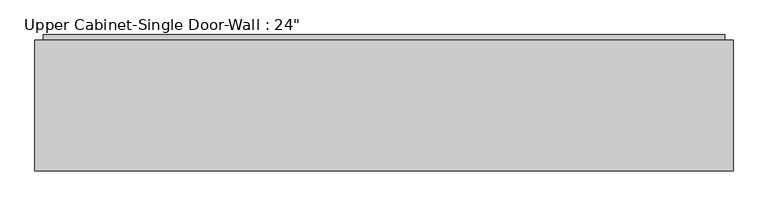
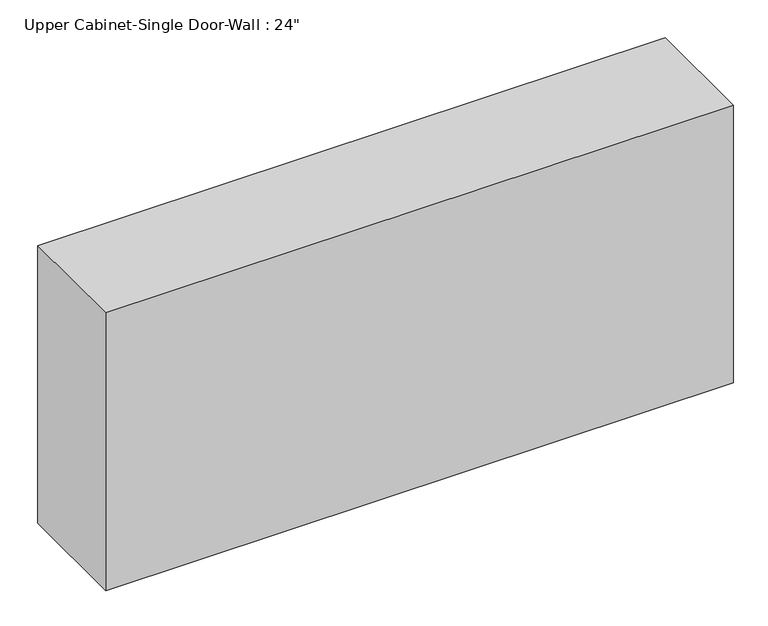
"""IFC4 building model written with IfcOpenShell, lengths in millimetres: furniture geometry."""

from ifc_helpers import new_model, si_unit, frame, origin, place, context, project, spatial, polyline, outline, extrude, faceted_brep, source, transform, mapped, element, save


def furniture_1611b9c0(model_context):
    return source(origin(), model_context, "Body", "SolidModel", [
        faceted_brep([(-1369.9853771, 82.55, 2133.6), (-1369.9853771, 82.55, 1371.6), (258.3711628, 82.55, 1371.6), (258.3711628, 82.55, 2133.6), (-1369.9853771, 387.35, 2133.6), (258.3711628, 387.35, 2133.6), (258.3711628, 387.35, 1371.6), (-1369.9853771, 387.35, 1371.6), (-1350.9353771, 387.35, 2114.55), (-1350.9353771, 387.35, 1390.65), (239.3211628, 387.35, 1390.65), (239.3211628, 387.35, 2114.55), (239.3211628, 101.6, 2114.55), (-1350.9353771, 101.6, 2114.55), (239.3211628, 101.6, 1390.65), (-1350.9353771, 101.6, 1390.65)], [[[0, 1, 2, 3]], [[4, 5, 6, 7], [8, 9, 10, 11]], [[1, 0, 4, 7]], [[2, 1, 7, 6]], [[3, 2, 6, 5]], [[0, 3, 5, 4]], [[8, 11, 12, 13]], [[11, 10, 14, 12]], [[10, 9, 15, 14]], [[9, 8, 13, 15]], [[13, 12, 14, 15]]]),
        extrude(outline(polyline([(-1350.9353771, 400.05), (239.3211628, 400.05), (239.3211628, 368.3), (-1350.9353771, 368.3), (-1350.9353771, 400.05)])), frame((0.0, 0.0, 1390.65), z_axis=(0.0, 0.0, 1.0), x_axis=(1.0, 0.0, 0.0)), (0.0, 0.0, 1.0), 723.9),
    ])


if __name__ == "__main__":
    model = new_model("IFC4")
    model_context = context("Model", 3, world=origin())
    ifc_project = project(units=[si_unit("LENGTHUNIT", "METRE", prefix="MILLI")], contexts=[model_context])
    site = spatial("IfcSite", under=ifc_project)
    building = spatial("IfcBuilding", under=site)
    placement = place(None, origin())
    furniture_shape = furniture_1611b9c0(model_context)
    element("IfcFurniture", 1, ObjectType="Upper Cabinet-Single Door-Wall : 24\"", at=placement, inside=building, context=model_context, shape_type="MappedRepresentation", body=[
        mapped(furniture_shape, transform((0.0, 0.0, 0.0), x_axis=(1.0, 0.0, 0.0), y_axis=(0.0, 1.0, 0.0), z_axis=(0.0, 0.0, 1.0))),
    ])
    save(model, "model.ifc")
